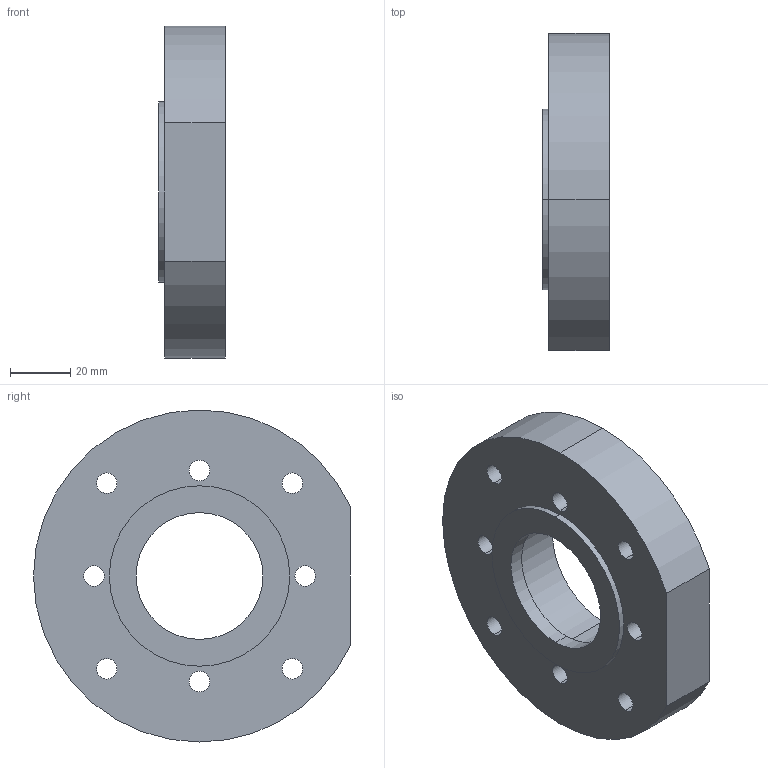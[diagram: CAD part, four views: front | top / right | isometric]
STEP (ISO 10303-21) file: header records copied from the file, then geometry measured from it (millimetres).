
FILE_DESCRIPTION (( 'STEP AP203' ), '1' );
FILE_NAME ('084.802.010.STEP', '2013-01-29T13:30:08', ( 'Alusic' ), ( 'Alusic' ), 'SwSTEP 2.0', 'SolidWorks 2011', '' );
FILE_SCHEMA (( 'CONFIG_CONTROL_DESIGN' ));
Length unit declared in the file: millimetre
Products named in the file (1): 084.802.010
Bounding box: 22 x 105 x 110 mm (x, y, z)
Volume: 150367.7 mm3; surface area: 29192.6 mm2
Topology: 1 solids, 1 shells, 30 faces, 78 edges, 52 vertices
Faces by surface type: cylinder 25, plane 5
Entity records: 1065 total; most frequent: DIRECTION 190, CARTESIAN_POINT 161, ORIENTED_EDGE 156, AXIS2_PLACEMENT_3D 81, EDGE_CURVE 78, VERTEX_POINT 52, EDGE_LOOP 50, CIRCLE 50
